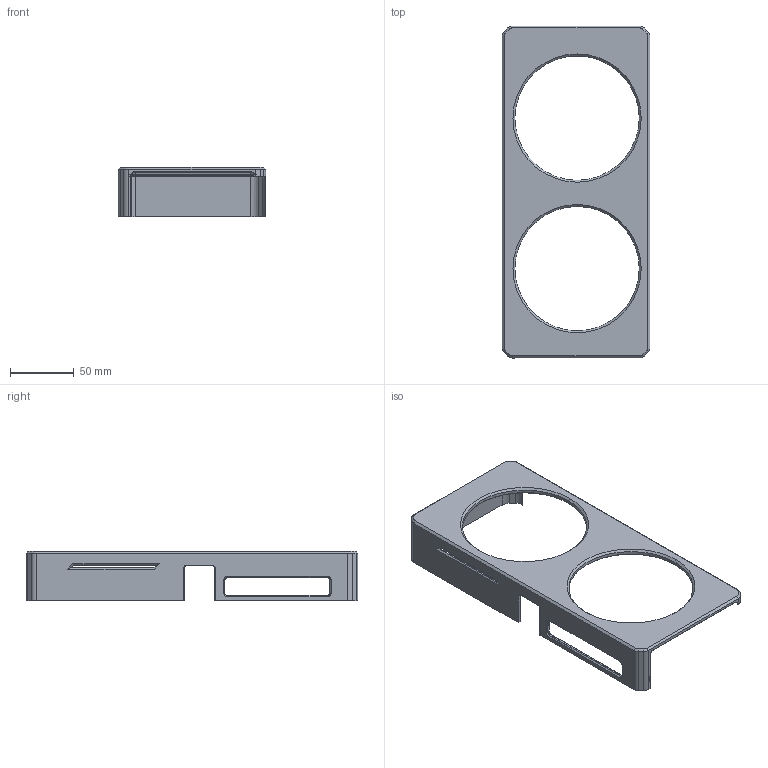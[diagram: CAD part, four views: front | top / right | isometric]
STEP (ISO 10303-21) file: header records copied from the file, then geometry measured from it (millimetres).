
FILE_DESCRIPTION((''),'2;1');
FILE_NAME('F330-1B0-COVER_FEEDBACK_DRAFT_2','2025-04-23T13:35:03',('Kate'),(''),'CREO PARAMETRIC BY PTC INC, 2021304','CREO PARAMETRIC BY PTC INC, 2021304','');
FILE_SCHEMA(('AUTOMOTIVE_DESIGN { 1 0 10303 214 1 1 1 1 }'));
Length unit declared in the file: millimetre
Products named in the file (1): F330-1B0-COVER_FEEDBACK_DRAFT_2
Bounding box: 115.7 x 260.2 x 39 mm (x, y, z)
Volume: 60296.6 mm3; surface area: 60707.2 mm2
Topology: 1 solids, 1 shells, 351 faces, 915 edges, 565 vertices
Faces by surface type: cylinder 97, plane 95, torus 64, bspline 42, extrusion 29, cone 20, revolution 4
Entity records: 16119 total; most frequent: CARTESIAN_POINT 7394, ORIENTED_EDGE 1830, DIRECTION 1414, EDGE_CURVE 915, COLOUR_RGB 673, VERTEX_POINT 565, AXIS2_PLACEMENT_3D 507, VECTOR 396
